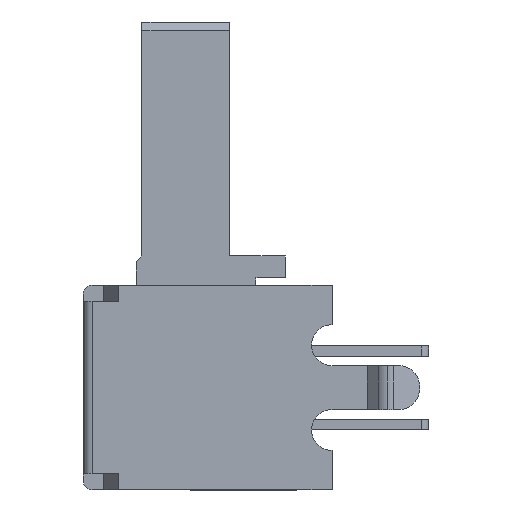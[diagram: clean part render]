
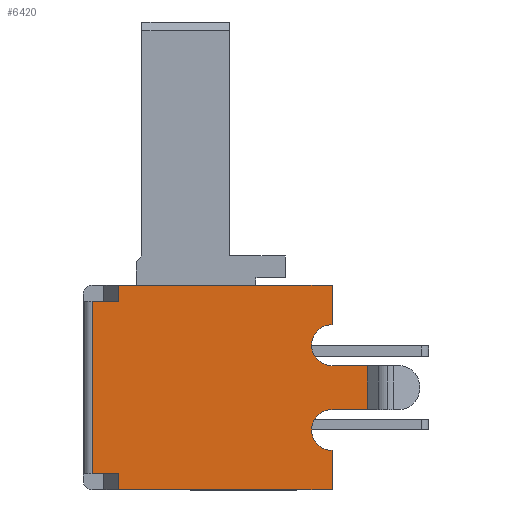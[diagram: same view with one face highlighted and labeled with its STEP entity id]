
A CAD part, left-side view. The second image highlights one B-rep face of the part: STEP entity #6420.
In plain terms, the highlighted planar face has unit normal (-1, 0, 0).
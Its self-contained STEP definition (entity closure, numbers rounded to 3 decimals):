
#3277 = AXIS2_PLACEMENT_3D ( 'NONE', #3526, #3781, #3776 ) ;
#3526 = CARTESIAN_POINT ( 'NONE',  ( -8.25, 8., -3.5 ) ) ;
#3741 = VECTOR ( 'NONE', #3809, 1000. ) ;
#3742 = CARTESIAN_POINT ( 'NONE',  ( -8.25, 8.5, 2.95 ) ) ;
#3743 = LINE ( 'NONE', #3742, #3741 ) ;
#3776 = DIRECTION ( 'NONE',  ( 0., 0., 1. ) ) ;
#3781 = DIRECTION ( 'NONE',  ( -1., 0., 0. ) ) ;
#3807 = CARTESIAN_POINT ( 'NONE',  ( -8.25, 8.2, 2.95 ) ) ;
#3809 = DIRECTION ( 'NONE',  ( 0., -1., 0. ) ) ;
#3839 = CARTESIAN_POINT ( 'NONE',  ( -8.25, 7.3, 2.95 ) ) ;
#3872 = CARTESIAN_POINT ( 'NONE',  ( -8.25, 8.2, -2.95 ) ) ;
#3893 = DIRECTION ( 'NONE',  ( 0., 1., 0. ) ) ;
#3894 = VECTOR ( 'NONE', #3893, 1000. ) ;
#3895 = CARTESIAN_POINT ( 'NONE',  ( -8.25, 8.5, -2.95 ) ) ;
#3896 = LINE ( 'NONE', #3895, #3894 ) ;
#3898 = CARTESIAN_POINT ( 'NONE',  ( -8.25, 7.3, -2.95 ) ) ;
#3904 = CARTESIAN_POINT ( 'NONE',  ( -8.25, 7.3, 3.5 ) ) ;
#3905 = DIRECTION ( 'NONE',  ( 0., 1., 0. ) ) ;
#3906 = VECTOR ( 'NONE', #3905, 1000. ) ;
#3907 = CARTESIAN_POINT ( 'NONE',  ( -8.25, 7.3, 3.5 ) ) ;
#3908 = LINE ( 'NONE', #3907, #3906 ) ;
#3909 = DIRECTION ( 'NONE',  ( 0., 0., -1. ) ) ;
#3910 = VECTOR ( 'NONE', #3909, 1000. ) ;
#3911 = CARTESIAN_POINT ( 'NONE',  ( -8.25, 0., -3.5 ) ) ;
#3912 = LINE ( 'NONE', #3911, #3910 ) ;
#3913 = DIRECTION ( 'NONE',  ( 0., 1., 0. ) ) ;
#3914 = VECTOR ( 'NONE', #3913, 1000. ) ;
#3915 = CARTESIAN_POINT ( 'NONE',  ( -8.25, -1.2, 0.75 ) ) ;
#3916 = LINE ( 'NONE', #3915, #3914 ) ;
#3917 = CARTESIAN_POINT ( 'NONE',  ( -8.25, 0., 2.15 ) ) ;
#3918 = DIRECTION ( 'NONE',  ( 0., 0., -1. ) ) ;
#3919 = DIRECTION ( 'NONE',  ( -1., 0., 0. ) ) ;
#3920 = CARTESIAN_POINT ( 'NONE',  ( -8.25, 0., 1.45 ) ) ;
#3921 = AXIS2_PLACEMENT_3D ( 'NONE', #3920, #3919, #3918 ) ;
#3922 = CIRCLE ( 'NONE', #3921, 0.7 ) ;
#3950 = DIRECTION ( 'NONE',  ( 0., 1., 0. ) ) ;
#3951 = VECTOR ( 'NONE', #3950, 1000. ) ;
#3952 = CARTESIAN_POINT ( 'NONE',  ( -8.25, 7.3, -3.5 ) ) ;
#3953 = LINE ( 'NONE', #3952, #3951 ) ;
#3954 = DIRECTION ( 'NONE',  ( 0., 0., 1. ) ) ;
#3955 = VECTOR ( 'NONE', #3954, 1000. ) ;
#3956 = CARTESIAN_POINT ( 'NONE',  ( -8.25, 7.3, 3. ) ) ;
#3957 = LINE ( 'NONE', #3956, #3955 ) ;
#3958 = CARTESIAN_POINT ( 'NONE',  ( -8.25, -1.2, -0.75 ) ) ;
#3959 = CARTESIAN_POINT ( 'NONE',  ( -8.25, 0., -0.75 ) ) ;
#3960 = CARTESIAN_POINT ( 'NONE',  ( -8.25, 0., -2.15 ) ) ;
#3961 = CARTESIAN_POINT ( 'NONE',  ( -8.25, 0., -3.5 ) ) ;
#3962 = DIRECTION ( 'NONE',  ( 0., 0., -1. ) ) ;
#3963 = VECTOR ( 'NONE', #3962, 1000. ) ;
#3964 = CARTESIAN_POINT ( 'NONE',  ( -8.25, -1.2, 0.75 ) ) ;
#3965 = LINE ( 'NONE', #3964, #3963 ) ;
#4030 = PLANE ( 'NONE',  #3277 ) ;
#4031 = FACE_OUTER_BOUND ( 'NONE', #6411, .T. ) ;
#4032 = CARTESIAN_POINT ( 'NONE',  ( -8.25, 0., 0.75 ) ) ;
#4033 = CARTESIAN_POINT ( 'NONE',  ( -8.25, 7.3, -3.5 ) ) ;
#4034 = DIRECTION ( 'NONE',  ( 0., 0., -1. ) ) ;
#4035 = VECTOR ( 'NONE', #4034, 1000. ) ;
#4036 = CARTESIAN_POINT ( 'NONE',  ( -8.25, 7.3, -3. ) ) ;
#4037 = LINE ( 'NONE', #4036, #4035 ) ;
#4038 = DIRECTION ( 'NONE',  ( 0., 0., 1. ) ) ;
#4039 = DIRECTION ( 'NONE',  ( -1., 0., 0. ) ) ;
#4040 = CARTESIAN_POINT ( 'NONE',  ( -8.25, 0., -1.45 ) ) ;
#4041 = AXIS2_PLACEMENT_3D ( 'NONE', #4040, #4039, #4038 ) ;
#4042 = CIRCLE ( 'NONE', #4041, 0.7 ) ;
#4043 = CARTESIAN_POINT ( 'NONE',  ( -8.25, -1.2, 0.75 ) ) ;
#4056 = DIRECTION ( 'NONE',  ( 0., 0., -1. ) ) ;
#4057 = VECTOR ( 'NONE', #4056, 1000. ) ;
#4058 = CARTESIAN_POINT ( 'NONE',  ( -8.25, 8.2, -3.5 ) ) ;
#4059 = LINE ( 'NONE', #4058, #4057 ) ;
#4081 = DIRECTION ( 'NONE',  ( 0., 1., 0. ) ) ;
#4082 = VECTOR ( 'NONE', #4081, 1000. ) ;
#4083 = CARTESIAN_POINT ( 'NONE',  ( -8.25, -1.2, -0.75 ) ) ;
#4084 = LINE ( 'NONE', #4083, #4082 ) ;
#4085 = CARTESIAN_POINT ( 'NONE',  ( -8.25, 0., 3.5 ) ) ;
#4086 = DIRECTION ( 'NONE',  ( 0., 0., -1. ) ) ;
#4087 = VECTOR ( 'NONE', #4086, 1000. ) ;
#4088 = CARTESIAN_POINT ( 'NONE',  ( -8.25, 0., 3.5 ) ) ;
#4089 = LINE ( 'NONE', #4088, #4087 ) ;
#6132 = ORIENTED_EDGE ( 'NONE', *, *, #6262, .F. ) ;
#6262 = EDGE_CURVE ( 'NONE', #6265, #6282, #3743, .T. ) ;
#6265 = VERTEX_POINT ( 'NONE', #3807 ) ;
#6282 = VERTEX_POINT ( 'NONE', #3839 ) ;
#6322 = VERTEX_POINT ( 'NONE', #3898 ) ;
#6324 = EDGE_CURVE ( 'NONE', #6322, #6335, #3896, .T. ) ;
#6335 = VERTEX_POINT ( 'NONE', #3872 ) ;
#6339 = ORIENTED_EDGE ( 'NONE', *, *, #6340, .F. ) ;
#6340 = EDGE_CURVE ( 'NONE', #6341, #6418, #3922, .T. ) ;
#6341 = VERTEX_POINT ( 'NONE', #3917 ) ;
#6342 = ORIENTED_EDGE ( 'NONE', *, *, #6343, .T. ) ;
#6343 = EDGE_CURVE ( 'NONE', #6410, #6418, #3916, .T. ) ;
#6344 = EDGE_CURVE ( 'NONE', #6351, #6350, #3912, .T. ) ;
#6345 = ORIENTED_EDGE ( 'NONE', *, *, #6346, .T. ) ;
#6346 = EDGE_CURVE ( 'NONE', #6423, #6347, #3908, .T. ) ;
#6347 = VERTEX_POINT ( 'NONE', #3904 ) ;
#6348 = ORIENTED_EDGE ( 'NONE', *, *, #6349, .F. ) ;
#6349 = EDGE_CURVE ( 'NONE', #6410, #6354, #3965, .T. ) ;
#6350 = VERTEX_POINT ( 'NONE', #3961 ) ;
#6351 = VERTEX_POINT ( 'NONE', #3960 ) ;
#6352 = VERTEX_POINT ( 'NONE', #3959 ) ;
#6353 = ORIENTED_EDGE ( 'NONE', *, *, #6424, .F. ) ;
#6354 = VERTEX_POINT ( 'NONE', #3958 ) ;
#6355 = ORIENTED_EDGE ( 'NONE', *, *, #6356, .F. ) ;
#6356 = EDGE_CURVE ( 'NONE', #6282, #6347, #3957, .T. ) ;
#6357 = EDGE_CURVE ( 'NONE', #6350, #6417, #3953, .T. ) ;
#6399 = ORIENTED_EDGE ( 'NONE', *, *, #6401, .T. ) ;
#6401 = EDGE_CURVE ( 'NONE', #6265, #6335, #4059, .T. ) ;
#6410 = VERTEX_POINT ( 'NONE', #4043 ) ;
#6411 = EDGE_LOOP ( 'NONE', ( #6425, #6412, #6419, #6416, #6413, #6353, #6348, #6342, #6339, #6421, #6345, #6355, #6132, #6399 ) ) ;
#6412 = ORIENTED_EDGE ( 'NONE', *, *, #6415, .T. ) ;
#6413 = ORIENTED_EDGE ( 'NONE', *, *, #6414, .F. ) ;
#6414 = EDGE_CURVE ( 'NONE', #6352, #6351, #4042, .T. ) ;
#6415 = EDGE_CURVE ( 'NONE', #6322, #6417, #4037, .T. ) ;
#6416 = ORIENTED_EDGE ( 'NONE', *, *, #6344, .F. ) ;
#6417 = VERTEX_POINT ( 'NONE', #4033 ) ;
#6418 = VERTEX_POINT ( 'NONE', #4032 ) ;
#6419 = ORIENTED_EDGE ( 'NONE', *, *, #6357, .F. ) ;
#6420 = ADVANCED_FACE ( 'NONE', ( #4031 ), #4030, .T. ) ;
#6421 = ORIENTED_EDGE ( 'NONE', *, *, #6422, .F. ) ;
#6422 = EDGE_CURVE ( 'NONE', #6423, #6341, #4089, .T. ) ;
#6423 = VERTEX_POINT ( 'NONE', #4085 ) ;
#6424 = EDGE_CURVE ( 'NONE', #6354, #6352, #4084, .T. ) ;
#6425 = ORIENTED_EDGE ( 'NONE', *, *, #6324, .F. ) ;
